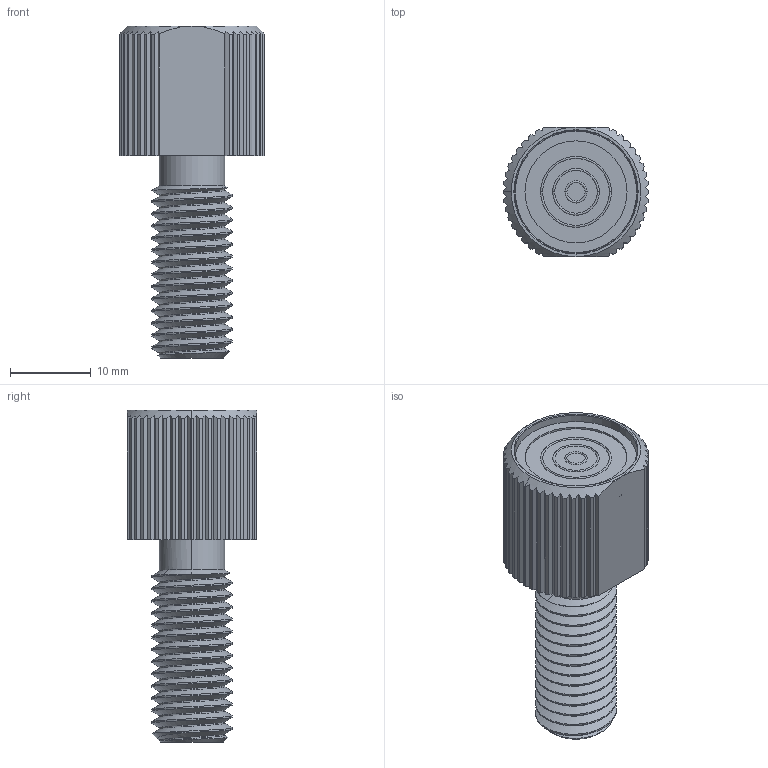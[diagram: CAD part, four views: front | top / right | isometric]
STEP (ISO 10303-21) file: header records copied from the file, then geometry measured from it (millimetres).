
FILE_DESCRIPTION (( 'STEP AP214' ), '1' );
FILE_NAME ('BAR100-ASM-R1.STEP', '2017-08-25T20:21:00', ( '' ), ( '' ), 'SwSTEP 2.0', 'SolidWorks 2016', '' );
FILE_SCHEMA (( 'AUTOMOTIVE_DESIGN' ));
Length unit declared in the file: millimetre
Products named in the file (4): BAR100-ELEC-VOLTAGE-REG-X1A; BAR100-M-BOLT-R1_PA-7LD; Keller-PA-7LD; BAR100-ASM-R1
Assembly tree (3 placements, depth 2):
  BAR100-ASM-R1
    Keller-PA-7LD
    BAR100-M-BOLT-R1_PA-7LD
    BAR100-ELEC-VOLTAGE-REG-X1A
Bounding box: 18 x 16 x 41 mm (x, y, z)
Volume: 3639.4 mm3; surface area: 5063.8 mm2
Topology: 10 solids, 10 shells, 281 faces, 726 edges, 476 vertices
Faces by surface type: cylinder 139, plane 108, cone 18, torus 14, bspline 2
Entity records: 10789 total; most frequent: CARTESIAN_POINT 3667, ORIENTED_EDGE 1452, DIRECTION 1322, EDGE_CURVE 726, AXIS2_PLACEMENT_3D 506, VERTEX_POINT 476, LINE 310, VECTOR 310
